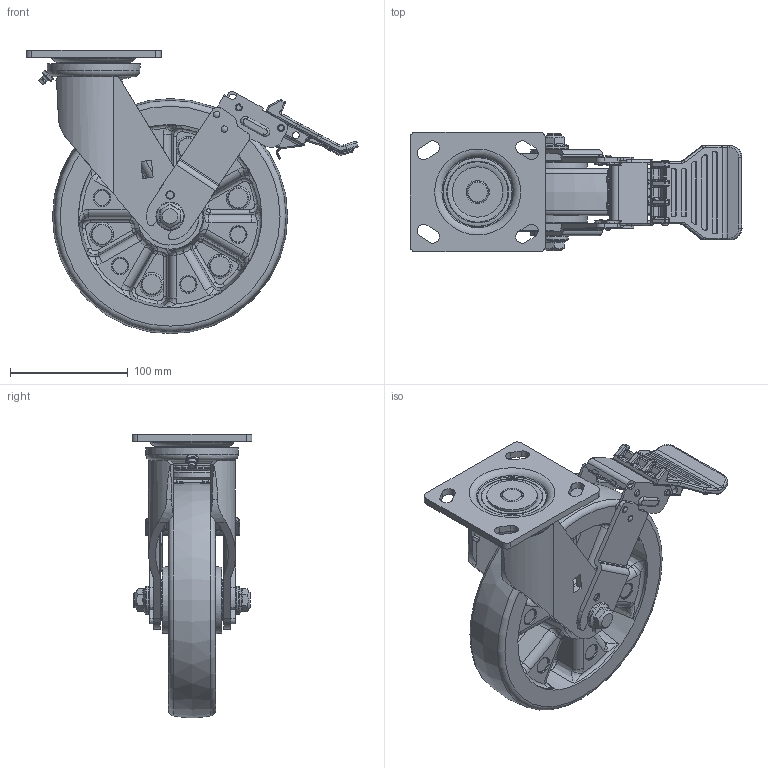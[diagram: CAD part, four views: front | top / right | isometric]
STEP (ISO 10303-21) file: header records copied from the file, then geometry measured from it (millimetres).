
FILE_DESCRIPTION((''),'2;1');
FILE_NAME('C:\Documents and Settings\Administrator\바탕 화면\3D STEP\GH-SERIES\GH-200\GH-200B-SF.stp','2010-12-27T14:26:11',('Administrator'),(''),'Autodesk Inventor 2009','Autodesk Inventor 2009','');
FILE_SCHEMA(('AUTOMOTIVE_DESIGN { 1 0 10303 214 1 1 1 1 }'));
Length unit declared in the file: millimetre
Products named in the file (1): GH-200B-SF
Bounding box: 282.28 x 102 x 240.82 mm (x, y, z)
Volume: 882909.4 mm3; surface area: 297982.1 mm2
Topology: 7 solids, 31 shells, 2043 faces, 5315 edges, 3237 vertices
Faces by surface type: cylinder 636, plane 567, bspline 523, torus 128, sphere 118, cone 71
Full cylindrical faces by diameter (mm): 3 x3, 4 x6, 4.2 x8, 4.8 x2, 6 x2, 7 x2, 7.5 x2, 8 x2, 12 x2, 15 x2, 15.2 x2, 18.5 x2, 21.5 x1, 22 x1, 24 x2, 29.997 x1, 30 x1, 30.5 x2, 31.615 x2, 35 x4, 38.999 x1, 41.192 x1, 42.8 x1, 44 x2, 48.961 x2, 61.087 x1, 63.14 x1, 65.14 x1, 69 x1, 79 x1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
Entity records: 91106 total; most frequent: CARTESIAN_POINT 45679, ORIENTED_EDGE 9518, DIRECTION 9198, EDGE_CURVE 4759, AXIS2_PLACEMENT_3D 3721, VERTEX_POINT 3028, EDGE_LOOP 2427, FACE_OUTER_BOUND 2019
